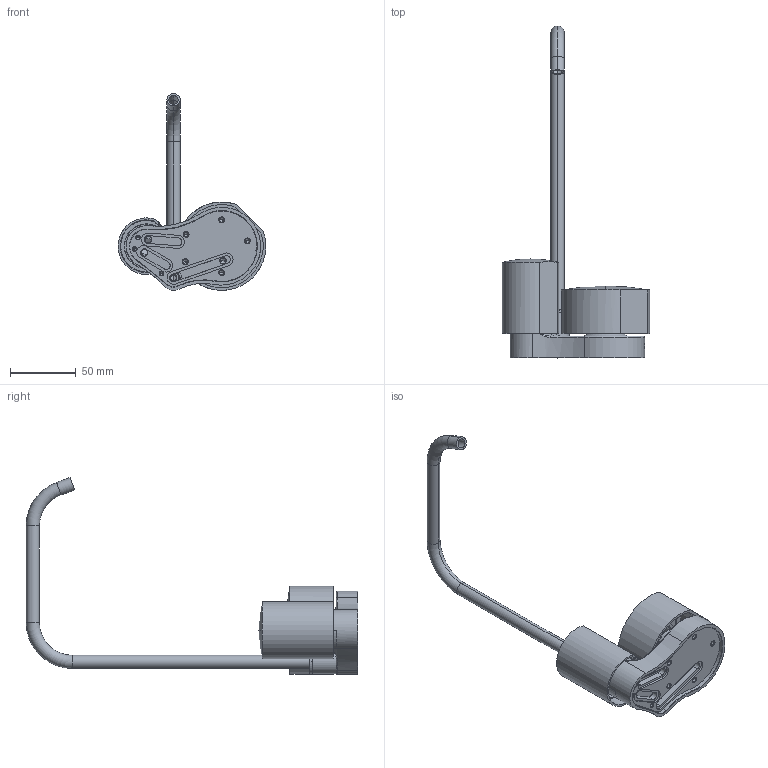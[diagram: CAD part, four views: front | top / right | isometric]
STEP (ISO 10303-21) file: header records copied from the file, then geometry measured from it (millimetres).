
FILE_DESCRIPTION((''),'2;1');
FILE_NAME('F3171A_FILE_3D','2019-04-04T',('ivanv'),(''),'CREO PARAMETRIC BY PTC INC, 2016260','CREO PARAMETRIC BY PTC INC, 2016260','');
FILE_SCHEMA(('CONFIG_CONTROL_DESIGN'));
Length unit declared in the file: millimetre
Products named in the file (1): F3171A_FILE_3D
Bounding box: 112 x 251.5 x 149.2 mm (x, y, z)
Volume: 139909.5 mm3; surface area: 84601.1 mm2
Topology: 3 solids, 3 shells, 440 faces, 1025 edges, 601 vertices
Faces by surface type: cylinder 170, cone 106, plane 79, torus 62, bspline 17, sphere 6
Entity records: 15247 total; most frequent: CARTESIAN_POINT 5194, DIRECTION 2251, ORIENTED_EDGE 1990, EDGE_CURVE 995, AXIS2_PLACEMENT_3D 942, VERTEX_POINT 601, CIRCLE 519, EDGE_LOOP 496
